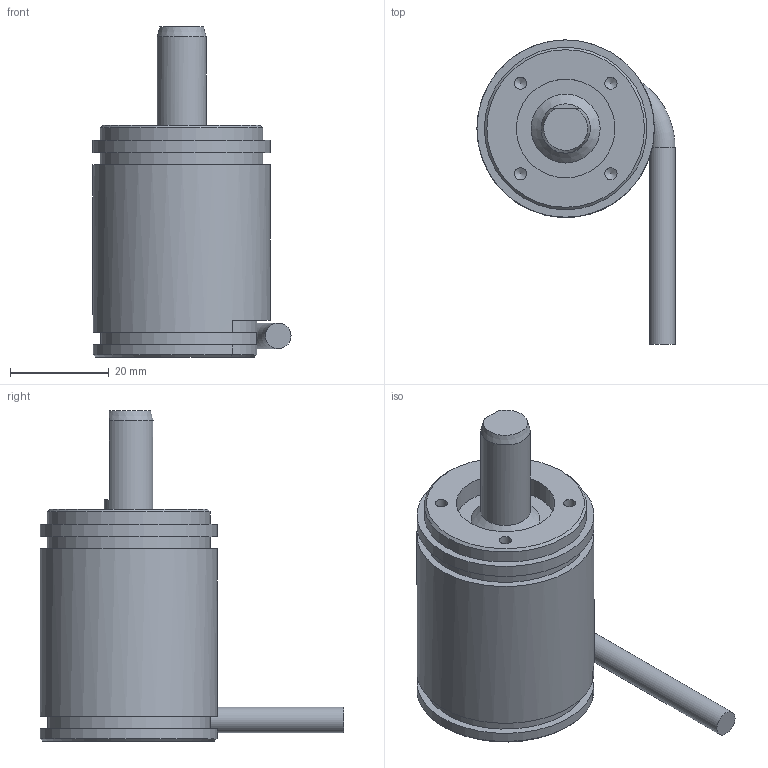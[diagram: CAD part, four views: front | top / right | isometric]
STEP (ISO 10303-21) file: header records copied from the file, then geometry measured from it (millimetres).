
FILE_DESCRIPTION((''),'2;1');
FILE_NAME('C:\Dokumente und Einstellungen\kamp.ASM\Eigene Dateien\121603_Pras3AV_001_-Kunde.stp','2007-11-08T12:12:06',('kamp'),(''),'Autodesk Inventor 11','Autodesk Inventor 11','');
FILE_SCHEMA(('AUTOMOTIVE_DESIGN { 1 0 10303 214 1 1 1 1 }'));
Length unit declared in the file: millimetre
Products named in the file (1): 121603_Pras3AV_001_-Kunde
Bounding box: 40.2 x 61.69 x 67 mm (x, y, z)
Volume: 47404.3 mm3; surface area: 10049.5 mm2
Topology: 1 solids, 1 shells, 51 faces, 121 edges, 77 vertices
Faces by surface type: plane 18, cylinder 14, bspline 10, cone 8, torus 1
Full cylindrical faces by diameter (mm): 5.2 x2, 10 x1, 20 x1, 33 x2, 36 x2
Entity records: 1473 total; most frequent: CARTESIAN_POINT 449, DIRECTION 218, ORIENTED_EDGE 174, AXIS2_PLACEMENT_3D 95, EDGE_CURVE 87, EDGE_LOOP 77, VERTEX_POINT 64, CIRCLE 53
